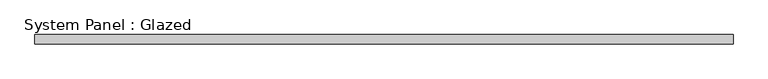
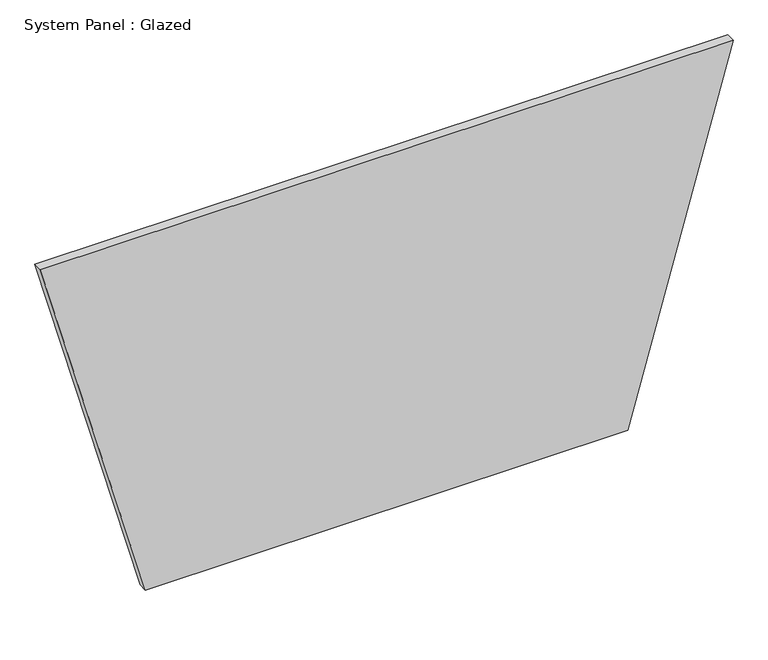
"""IFC4 building model written with IfcOpenShell, lengths in millimetres: plate geometry, System Panel : Glazed."""

import ifcopenshell
import ifcopenshell.guid

model = None  # the IFC model being written
_history = None  # IfcOwnerHistory: only IFC2X3 demands one
_inside = {}  # id of a spatial element -> (the spatial element, [elements in it])
_under = {}  # id of a project, library or spatial element -> (it, [spatial elements below it])
_declared = {}  # id of a project -> (the project, [libraries it declares])
_typed = {}  # id of a type object -> (the type object, [elements of that type])
_made_of = {}  # id of a material, layer set ... -> (it, [elements and type objects made of it])


def new_model(schema):
    """Start an empty IFC model of exactly this schema.

    Asked for "IFC4X3", IfcOpenShell would pick the latest addendum, in which some entities
    have other attributes; the version numbers below select the first issue.
    IFC2X3 requires an IfcOwnerHistory on every rooted entity: one is made here for all.
    """
    global model, _history
    if schema == "IFC4X3":
        model = ifcopenshell.file(schema_version=(4, 3, 0, 0))
    else:
        model = ifcopenshell.file(schema=schema)
    _inside.clear()
    _under.clear()
    _declared.clear()
    _typed.clear()
    _made_of.clear()
    _history = None
    if model.schema == "IFC2X3":
        org = make("IfcOrganization", Name="unknown")
        user = make(
            "IfcPersonAndOrganization",
            ThePerson=make("IfcPerson", FamilyName="unknown"),
            TheOrganization=org,
        )
        app = make(
            "IfcApplication",
            ApplicationDeveloper=org,
            Version="unknown",
            ApplicationFullName="unknown",
            ApplicationIdentifier="unknown",
        )
        _history = make(
            "IfcOwnerHistory",
            OwningUser=user,
            OwningApplication=app,
            ChangeAction="ADDED",
            CreationDate=0,
        )
    return model


def make(cls, **values):
    """One entity of the class cls with the attributes given. An attribute that is None is left unset."""
    return model.create_entity(
        cls, **{name: value for name, value in values.items() if value is not None}
    )


def rooted(cls, **values):
    """An entity with a GlobalId (a new one), such as an element, a storey or a relation."""
    return make(cls, GlobalId=ifcopenshell.guid.new(), OwnerHistory=_history, **values)


def si_unit(unit_type, name, prefix=None):
    """IfcSIUnit, for example si_unit("LENGTHUNIT", "METRE", prefix="MILLI")."""
    return make("IfcSIUnit", UnitType=unit_type, Prefix=prefix, Name=name)


def assignment(units):
    """IfcUnitAssignment: the units of a project."""
    return None if units is None else make("IfcUnitAssignment", Units=units)


def point(xyz):
    """IfcCartesianPoint."""
    return None if xyz is None else make("IfcCartesianPoint", Coordinates=xyz)


def direction(xyz):
    """IfcDirection."""
    return None if xyz is None else make("IfcDirection", DirectionRatios=xyz)


def frame(location, z_axis=None, x_axis=None):
    """IfcAxis2Placement3D, a coordinate frame: its origin and axes. An axis left out is left unset."""
    return make(
        "IfcAxis2Placement3D",
        Location=point(location),
        Axis=direction(z_axis),
        RefDirection=direction(x_axis),
    )


def origin():
    """The frame at (0, 0, 0) with its axes left unset."""
    return frame((0.0, 0.0, 0.0))


def place(relative_to, where):
    """IfcLocalPlacement: puts the frame where relative to a parent placement (None: the world)."""
    return make(
        "IfcLocalPlacement", PlacementRelTo=relative_to, RelativePlacement=where
    )


def context(
    kind, dimensions, precision=None, world=None, true_north=None, identifier=None
):
    """IfcGeometricRepresentationContext, for example the 3D "Model" context."""
    return make(
        "IfcGeometricRepresentationContext",
        ContextIdentifier=identifier,
        ContextType=kind,
        CoordinateSpaceDimension=dimensions,
        Precision=precision,
        WorldCoordinateSystem=world,
        TrueNorth=true_north,
    )


def project(units=None, contexts=None):
    """IfcProject with its units and contexts."""
    return rooted(
        "IfcProject",
        Name="project",
        RepresentationContexts=contexts,
        UnitsInContext=assignment(units),
    )


def spatial(cls, under=None, at=None, **own):
    """A site, building, storey or space (cls), placed at a placement, below another one or the project."""
    s = rooted(cls, ObjectPlacement=at, **own)
    if under is not None:
        _under.setdefault(under.id(), (under, []))[1].append(s)
    return s


def polyline(points):
    """IfcPolyline through the points."""
    return make("IfcPolyline", Points=[point(p) for p in points])


def outline(outer, holes=None, kind="AREA"):
    """IfcArbitraryClosedProfileDef: a profile drawn as a closed curve; with holes, ...WithVoids."""
    if holes is None:
        return make("IfcArbitraryClosedProfileDef", ProfileType=kind, OuterCurve=outer)
    return make(
        "IfcArbitraryProfileDefWithVoids",
        ProfileType=kind,
        OuterCurve=outer,
        InnerCurves=holes,
    )


def extrude(swept, where, along, depth):
    """IfcExtrudedAreaSolid: the profile swept, set in the frame where, extruded along a direction by depth."""
    return make(
        "IfcExtrudedAreaSolid",
        SweptArea=swept,
        Position=where,
        ExtrudedDirection=direction(along),
        Depth=depth,
    )


def shape(context_of_items, identifier, shape_type, items):
    """IfcShapeRepresentation: the items that make up one representation, for example the "Body"."""
    return make(
        "IfcShapeRepresentation",
        ContextOfItems=context_of_items,
        RepresentationIdentifier=identifier,
        RepresentationType=shape_type,
        Items=items,
    )


def source(mapping_origin, context_of_items, identifier, shape_type, items):
    """IfcRepresentationMap: a shape defined once, which mapped items show again and again."""
    return make(
        "IfcRepresentationMap",
        MappingOrigin=mapping_origin,
        MappedRepresentation=shape(context_of_items, identifier, shape_type, items),
    )


def transform(
    local_origin,
    x_axis=None,
    y_axis=None,
    z_axis=None,
    scale=None,
    scale2=None,
    scale3=None,
    uniform=True,
):
    """IfcCartesianTransformationOperator3D, or its non-uniform kind. x_axis, y_axis, z_axis: its Axis1, 2, 3."""
    if uniform:
        return make(
            "IfcCartesianTransformationOperator3D",
            Axis1=direction(x_axis),
            Axis2=direction(y_axis),
            LocalOrigin=point(local_origin),
            Scale=scale,
            Axis3=direction(z_axis),
        )
    return make(
        "IfcCartesianTransformationOperator3DnonUniform",
        Axis1=direction(x_axis),
        Axis2=direction(y_axis),
        LocalOrigin=point(local_origin),
        Scale=scale,
        Axis3=direction(z_axis),
        Scale2=scale2,
        Scale3=scale3,
    )


def mapped(mapping_source, mapping_target):
    """IfcMappedItem: shows the shape of a source again, moved by a transform."""
    return make(
        "IfcMappedItem", MappingSource=mapping_source, MappingTarget=mapping_target
    )


def made_of(thing, what):
    """Note that an element or type object is made of a material, layer set ...; save() writes the relation."""
    if what is not None:
        _made_of.setdefault(what.id(), (what, []))[1].append(thing)
    return thing


def element(
    cls,
    number,
    at=None,
    inside=None,
    cuts=None,
    type_object=None,
    material=None,
    context=None,
    identifier="Body",
    shape_type=None,
    held_by="IfcProductDefinitionShape",
    body=None,
    shapes=None,
    **own,
):
    """One element of the class cls, such as IfcWall. Its Tag is "e" and its number.

    at: its placement. inside: the storey or other place that contains it. cuts: it is an
    opening in that element (IfcRelVoidsElement). A single representation is given by context,
    identifier, shape_type and body (its items); several are given by shapes. held_by: the class
    of the entity that holds the representations. save() writes the other relations.
    """
    e = rooted(cls, Tag="e%d" % number, ObjectPlacement=at, **own)
    if body is not None:
        shapes = [shape(context, identifier, shape_type, body)]
    if shapes is not None:
        e.Representation = make(held_by, Representations=shapes)
    if inside is not None:
        _inside.setdefault(inside.id(), (inside, []))[1].append(e)
    if cuts is not None:
        rooted(
            "IfcRelVoidsElement", RelatingBuildingElement=cuts, RelatedOpeningElement=e
        )
    if type_object is not None:
        _typed.setdefault(type_object.id(), (type_object, []))[1].append(e)
    return made_of(e, material)


def aggregate(whole, parts):
    """IfcRelAggregates: a whole, such as a stair, and the parts it consists of."""
    return rooted("IfcRelAggregates", RelatingObject=whole, RelatedObjects=parts)


def save(model, path):
    """Write the relations noted so far, then the file.

    IfcRelAggregates (storeys below a building ...), IfcRelContainedInSpatialStructure (elements
    in a storey), IfcRelDefinesByType, IfcRelAssociatesMaterial and IfcRelDeclares: one each for
    every whole, place, type object, material and project.
    """
    for whole, parts in _under.values():
        aggregate(whole, parts)
    for where, things in _inside.values():
        rooted(
            "IfcRelContainedInSpatialStructure",
            RelatedElements=things,
            RelatingStructure=where,
        )
    for kind, things in _typed.values():
        rooted("IfcRelDefinesByType", RelatedObjects=things, RelatingType=kind)
    for what, things in _made_of.values():
        rooted("IfcRelAssociatesMaterial", RelatedObjects=things, RelatingMaterial=what)
    for by, libraries in _declared.values():
        rooted("IfcRelDeclares", RelatingContext=by, RelatedDefinitions=libraries)
    model.write(path)


def system_panel_glazed_a35e3d46(model_context):
    return source(origin(), model_context, "Body", "SweptSolid", [
        extrude(outline(polyline([(0.0, -659.7249993), (0.0, 659.7249993), (1027.3031023, 947.3194639), (1027.3031023, -947.3194639), (0.0, -659.7249993)])), frame((0.0, -44.45, 0.0), z_axis=(0.0, 1.0, 0.0), x_axis=(0.0, 0.0, 1.0)), (0.0, 0.0, 1.0), 25.4),
    ])


if __name__ == "__main__":
    model = new_model("IFC4")
    model_context = context("Model", 3, world=origin())
    ifc_project = project(units=[si_unit("LENGTHUNIT", "METRE", prefix="MILLI")], contexts=[model_context])
    site = spatial("IfcSite", under=ifc_project)
    building = spatial("IfcBuilding", under=site)
    placement = place(None, origin())
    system_panel_glazed_shape = system_panel_glazed_a35e3d46(model_context)
    element("IfcPlate", 1, ObjectType="System Panel : Glazed", at=placement, inside=building, context=model_context, shape_type="MappedRepresentation", body=[
        mapped(system_panel_glazed_shape, transform((0.0, 0.0, 0.0), x_axis=(1.0, 0.0, 0.0), y_axis=(0.0, 1.0, 0.0), z_axis=(0.0, 0.0, 1.0))),
    ])
    save(model, "model.ifc")
